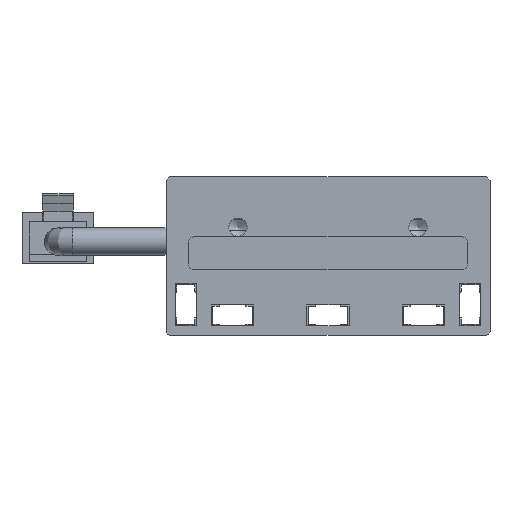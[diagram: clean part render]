
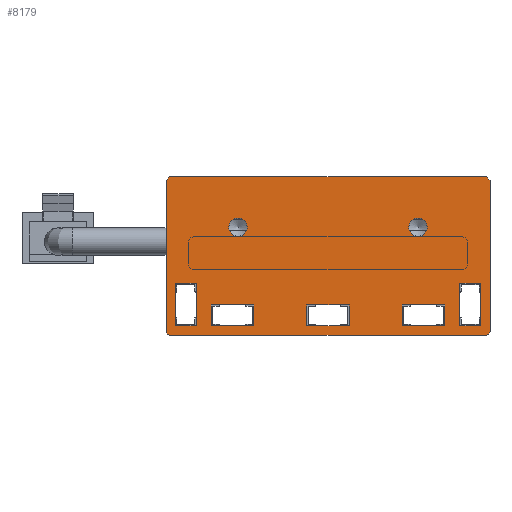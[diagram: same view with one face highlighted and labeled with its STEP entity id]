
A CAD part, front view. The second image highlights one B-rep face of the part: STEP entity #8179.
In plain terms, the highlighted planar face has unit normal (0, -1, 0).
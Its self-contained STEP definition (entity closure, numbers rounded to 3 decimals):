
#76=FACE_BOUND('',#1249,.T.);
#77=FACE_BOUND('',#1250,.T.);
#78=FACE_BOUND('',#1251,.T.);
#79=FACE_BOUND('',#1252,.T.);
#80=FACE_BOUND('',#1253,.T.);
#81=FACE_BOUND('',#1254,.T.);
#82=FACE_BOUND('',#1255,.T.);
#398=CIRCLE('',#8845,1.265);
#400=CIRCLE('',#8849,1.265);
#402=CIRCLE('',#8875,0.5);
#404=CIRCLE('',#8879,0.5);
#817=FACE_OUTER_BOUND('',#1248,.T.);
#1248=EDGE_LOOP('',(#7383,#7384,#7385,#7386,#7387,#7388,#7389,#7390));
#1249=EDGE_LOOP('',(#7391));
#1250=EDGE_LOOP('',(#7392));
#1251=EDGE_LOOP('',(#7393,#7394,#7395,#7396));
#1252=EDGE_LOOP('',(#7397,#7398,#7399,#7400));
#1253=EDGE_LOOP('',(#7401,#7402,#7403,#7404));
#1254=EDGE_LOOP('',(#7405,#7406,#7407,#7408));
#1255=EDGE_LOOP('',(#7409,#7410,#7411,#7412));
#2145=LINE('',#13345,#3093);
#2148=LINE('',#13351,#3096);
#2151=LINE('',#13357,#3099);
#2154=LINE('',#13361,#3102);
#2157=LINE('',#13369,#3105);
#2160=LINE('',#13375,#3108);
#2163=LINE('',#13381,#3111);
#2166=LINE('',#13385,#3114);
#2169=LINE('',#13393,#3117);
#2172=LINE('',#13399,#3120);
#2175=LINE('',#13405,#3123);
#2178=LINE('',#13409,#3126);
#2181=LINE('',#13417,#3129);
#2184=LINE('',#13423,#3132);
#2187=LINE('',#13429,#3135);
#2190=LINE('',#13433,#3138);
#2193=LINE('',#13441,#3141);
#2196=LINE('',#13447,#3144);
#2199=LINE('',#13453,#3147);
#2202=LINE('',#13457,#3150);
#2205=LINE('',#13465,#3153);
#2208=LINE('',#13471,#3156);
#2211=LINE('',#13477,#3159);
#2215=LINE('',#13489,#3163);
#2219=LINE('',#13501,#3167);
#2222=LINE('',#13505,#3170);
#3093=VECTOR('',#10975,10.);
#3096=VECTOR('',#10980,10.);
#3099=VECTOR('',#10985,10.);
#3102=VECTOR('',#10990,10.);
#3105=VECTOR('',#10995,10.);
#3108=VECTOR('',#11000,10.);
#3111=VECTOR('',#11005,10.);
#3114=VECTOR('',#11010,10.);
#3117=VECTOR('',#11015,10.);
#3120=VECTOR('',#11020,10.);
#3123=VECTOR('',#11025,10.);
#3126=VECTOR('',#11030,10.);
#3129=VECTOR('',#11035,10.);
#3132=VECTOR('',#11040,10.);
#3135=VECTOR('',#11045,10.);
#3138=VECTOR('',#11050,10.);
#3141=VECTOR('',#11055,10.);
#3144=VECTOR('',#11060,10.);
#3147=VECTOR('',#11065,10.);
#3150=VECTOR('',#11070,10.);
#3153=VECTOR('',#11075,10.);
#3156=VECTOR('',#11080,10.);
#3159=VECTOR('',#11085,10.);
#3163=VECTOR('',#11097,10.);
#3167=VECTOR('',#11109,10.);
#3170=VECTOR('',#11114,10.);
#3891=VERTEX_POINT('',#13326);
#3894=VERTEX_POINT('',#13335);
#3897=VERTEX_POINT('',#13342);
#3898=VERTEX_POINT('',#13344);
#3900=VERTEX_POINT('',#13350);
#3902=VERTEX_POINT('',#13356);
#3905=VERTEX_POINT('',#13366);
#3906=VERTEX_POINT('',#13368);
#3908=VERTEX_POINT('',#13374);
#3910=VERTEX_POINT('',#13380);
#3913=VERTEX_POINT('',#13390);
#3914=VERTEX_POINT('',#13392);
#3916=VERTEX_POINT('',#13398);
#3918=VERTEX_POINT('',#13404);
#3921=VERTEX_POINT('',#13414);
#3922=VERTEX_POINT('',#13416);
#3924=VERTEX_POINT('',#13422);
#3926=VERTEX_POINT('',#13428);
#3929=VERTEX_POINT('',#13438);
#3930=VERTEX_POINT('',#13440);
#3932=VERTEX_POINT('',#13446);
#3934=VERTEX_POINT('',#13452);
#3937=VERTEX_POINT('',#13462);
#3938=VERTEX_POINT('',#13464);
#3940=VERTEX_POINT('',#13470);
#3942=VERTEX_POINT('',#13476);
#3944=VERTEX_POINT('',#13482);
#3946=VERTEX_POINT('',#13488);
#3948=VERTEX_POINT('',#13494);
#3950=VERTEX_POINT('',#13500);
#5031=EDGE_CURVE('',#3891,#3891,#398,.T.);
#5035=EDGE_CURVE('',#3894,#3894,#400,.T.);
#5039=EDGE_CURVE('',#3898,#3897,#2145,.T.);
#5042=EDGE_CURVE('',#3900,#3898,#2148,.T.);
#5045=EDGE_CURVE('',#3902,#3900,#2151,.T.);
#5048=EDGE_CURVE('',#3897,#3902,#2154,.T.);
#5051=EDGE_CURVE('',#3906,#3905,#2157,.T.);
#5054=EDGE_CURVE('',#3908,#3906,#2160,.T.);
#5057=EDGE_CURVE('',#3910,#3908,#2163,.T.);
#5060=EDGE_CURVE('',#3905,#3910,#2166,.T.);
#5063=EDGE_CURVE('',#3914,#3913,#2169,.T.);
#5066=EDGE_CURVE('',#3916,#3914,#2172,.T.);
#5069=EDGE_CURVE('',#3918,#3916,#2175,.T.);
#5072=EDGE_CURVE('',#3913,#3918,#2178,.T.);
#5075=EDGE_CURVE('',#3922,#3921,#2181,.T.);
#5078=EDGE_CURVE('',#3924,#3922,#2184,.T.);
#5081=EDGE_CURVE('',#3926,#3924,#2187,.T.);
#5084=EDGE_CURVE('',#3921,#3926,#2190,.T.);
#5087=EDGE_CURVE('',#3930,#3929,#2193,.T.);
#5090=EDGE_CURVE('',#3932,#3930,#2196,.T.);
#5093=EDGE_CURVE('',#3934,#3932,#2199,.T.);
#5096=EDGE_CURVE('',#3929,#3934,#2202,.T.);
#5099=EDGE_CURVE('',#3938,#3937,#2205,.T.);
#5102=EDGE_CURVE('',#3940,#3938,#2208,.T.);
#5105=EDGE_CURVE('',#3942,#3940,#2211,.T.);
#5108=EDGE_CURVE('',#3944,#3942,#402,.T.);
#5111=EDGE_CURVE('',#3946,#3944,#2215,.T.);
#5114=EDGE_CURVE('',#3948,#3946,#404,.T.);
#5117=EDGE_CURVE('',#3950,#3948,#2219,.T.);
#5120=EDGE_CURVE('',#3937,#3950,#2222,.T.);
#7383=ORIENTED_EDGE('',*,*,#5120,.T.);
#7384=ORIENTED_EDGE('',*,*,#5117,.T.);
#7385=ORIENTED_EDGE('',*,*,#5114,.T.);
#7386=ORIENTED_EDGE('',*,*,#5111,.T.);
#7387=ORIENTED_EDGE('',*,*,#5108,.T.);
#7388=ORIENTED_EDGE('',*,*,#5105,.T.);
#7389=ORIENTED_EDGE('',*,*,#5102,.T.);
#7390=ORIENTED_EDGE('',*,*,#5099,.T.);
#7391=ORIENTED_EDGE('',*,*,#5031,.T.);
#7392=ORIENTED_EDGE('',*,*,#5035,.T.);
#7393=ORIENTED_EDGE('',*,*,#5096,.T.);
#7394=ORIENTED_EDGE('',*,*,#5093,.T.);
#7395=ORIENTED_EDGE('',*,*,#5090,.T.);
#7396=ORIENTED_EDGE('',*,*,#5087,.T.);
#7397=ORIENTED_EDGE('',*,*,#5084,.T.);
#7398=ORIENTED_EDGE('',*,*,#5081,.T.);
#7399=ORIENTED_EDGE('',*,*,#5078,.T.);
#7400=ORIENTED_EDGE('',*,*,#5075,.T.);
#7401=ORIENTED_EDGE('',*,*,#5072,.T.);
#7402=ORIENTED_EDGE('',*,*,#5069,.T.);
#7403=ORIENTED_EDGE('',*,*,#5066,.T.);
#7404=ORIENTED_EDGE('',*,*,#5063,.T.);
#7405=ORIENTED_EDGE('',*,*,#5060,.T.);
#7406=ORIENTED_EDGE('',*,*,#5057,.T.);
#7407=ORIENTED_EDGE('',*,*,#5054,.T.);
#7408=ORIENTED_EDGE('',*,*,#5051,.T.);
#7409=ORIENTED_EDGE('',*,*,#5048,.T.);
#7410=ORIENTED_EDGE('',*,*,#5045,.T.);
#7411=ORIENTED_EDGE('',*,*,#5042,.T.);
#7412=ORIENTED_EDGE('',*,*,#5039,.T.);
#7765=PLANE('',#8882);
#8179=ADVANCED_FACE('',(#817,#76,#77,#78,#79,#80,#81,#82),#7765,.T.);
#8845=AXIS2_PLACEMENT_3D('',#13327,#10958,#10959);
#8849=AXIS2_PLACEMENT_3D('',#13336,#10968,#10969);
#8875=AXIS2_PLACEMENT_3D('',#13483,#11091,#11092);
#8879=AXIS2_PLACEMENT_3D('',#13495,#11103,#11104);
#8882=AXIS2_PLACEMENT_3D('',#13506,#11115,#11116);
#10958=DIRECTION('center_axis',(0.,1.,0.));
#10959=DIRECTION('ref_axis',(0.,0.,-1.));
#10968=DIRECTION('center_axis',(0.,1.,0.));
#10969=DIRECTION('ref_axis',(0.,0.,-1.));
#10975=DIRECTION('',(0.,0.,-1.));
#10980=DIRECTION('',(1.,0.,0.));
#10985=DIRECTION('',(0.,0.,1.));
#10990=DIRECTION('',(-1.,0.,0.));
#10995=DIRECTION('',(0.,0.,-1.));
#11000=DIRECTION('',(1.,0.,0.));
#11005=DIRECTION('',(0.,0.,1.));
#11010=DIRECTION('',(-1.,0.,0.));
#11015=DIRECTION('',(0.,0.,-1.));
#11020=DIRECTION('',(1.,0.,0.));
#11025=DIRECTION('',(0.,0.,1.));
#11030=DIRECTION('',(-1.,0.,0.));
#11035=DIRECTION('',(0.,0.,-1.));
#11040=DIRECTION('',(1.,0.,0.));
#11045=DIRECTION('',(0.,0.,1.));
#11050=DIRECTION('',(-1.,0.,0.));
#11055=DIRECTION('',(0.,0.,-1.));
#11060=DIRECTION('',(1.,0.,0.));
#11065=DIRECTION('',(0.,0.,1.));
#11070=DIRECTION('',(-1.,0.,0.));
#11075=DIRECTION('',(-1.,0.,0.));
#11080=DIRECTION('',(-0.707,0.,0.707));
#11085=DIRECTION('',(0.,0.,1.));
#11091=DIRECTION('center_axis',(0.,-1.,0.));
#11092=DIRECTION('ref_axis',(0.,0.,-1.));
#11097=DIRECTION('',(1.,0.,0.));
#11103=DIRECTION('center_axis',(0.,-1.,0.));
#11104=DIRECTION('ref_axis',(-1.,0.,0.));
#11109=DIRECTION('',(0.,0.,-1.));
#11114=DIRECTION('',(-0.707,0.,-0.707));
#11115=DIRECTION('center_axis',(0.,-1.,0.));
#11116=DIRECTION('ref_axis',(1.,0.,0.));
#13326=CARTESIAN_POINT('',(-12.5,-285.,16.265));
#13327=CARTESIAN_POINT('Origin',(-12.5,-285.,15.));
#13335=CARTESIAN_POINT('',(12.5,-285.,16.265));
#13336=CARTESIAN_POINT('Origin',(12.5,-285.,15.));
#13342=CARTESIAN_POINT('',(-18.3,-285.,1.3));
#13344=CARTESIAN_POINT('',(-18.3,-285.,7.2));
#13345=CARTESIAN_POINT('',(-18.3,-285.,7.2));
#13350=CARTESIAN_POINT('',(-21.2,-285.,7.2));
#13351=CARTESIAN_POINT('',(-21.2,-285.,7.2));
#13356=CARTESIAN_POINT('',(-21.2,-285.,1.3));
#13357=CARTESIAN_POINT('',(-21.2,-285.,1.3));
#13361=CARTESIAN_POINT('',(-18.3,-285.,1.3));
#13366=CARTESIAN_POINT('',(-10.3,-285.,1.3));
#13368=CARTESIAN_POINT('',(-10.3,-285.,4.2));
#13369=CARTESIAN_POINT('',(-10.3,-285.,4.2));
#13374=CARTESIAN_POINT('',(-16.2,-285.,4.2));
#13375=CARTESIAN_POINT('',(-16.2,-285.,4.2));
#13380=CARTESIAN_POINT('',(-16.2,-285.,1.3));
#13381=CARTESIAN_POINT('',(-16.2,-285.,1.3));
#13385=CARTESIAN_POINT('',(-10.3,-285.,1.3));
#13390=CARTESIAN_POINT('',(2.95,-285.,1.3));
#13392=CARTESIAN_POINT('',(2.95,-285.,4.2));
#13393=CARTESIAN_POINT('',(2.95,-285.,4.2));
#13398=CARTESIAN_POINT('',(-2.95,-285.,4.2));
#13399=CARTESIAN_POINT('',(-2.95,-285.,4.2));
#13404=CARTESIAN_POINT('',(-2.95,-285.,1.3));
#13405=CARTESIAN_POINT('',(-2.95,-285.,1.3));
#13409=CARTESIAN_POINT('',(2.95,-285.,1.3));
#13414=CARTESIAN_POINT('',(16.2,-285.,1.3));
#13416=CARTESIAN_POINT('',(16.2,-285.,4.2));
#13417=CARTESIAN_POINT('',(16.2,-285.,4.2));
#13422=CARTESIAN_POINT('',(10.3,-285.,4.2));
#13423=CARTESIAN_POINT('',(10.3,-285.,4.2));
#13428=CARTESIAN_POINT('',(10.3,-285.,1.3));
#13429=CARTESIAN_POINT('',(10.3,-285.,1.3));
#13433=CARTESIAN_POINT('',(16.2,-285.,1.3));
#13438=CARTESIAN_POINT('',(21.2,-285.,1.3));
#13440=CARTESIAN_POINT('',(21.2,-285.,7.2));
#13441=CARTESIAN_POINT('',(21.2,-285.,7.2));
#13446=CARTESIAN_POINT('',(18.3,-285.,7.2));
#13447=CARTESIAN_POINT('',(18.3,-285.,7.2));
#13452=CARTESIAN_POINT('',(18.3,-285.,1.3));
#13453=CARTESIAN_POINT('',(18.3,-285.,1.3));
#13457=CARTESIAN_POINT('',(21.2,-285.,1.3));
#13462=CARTESIAN_POINT('',(-22.,-285.,22.));
#13464=CARTESIAN_POINT('',(22.,-285.,22.));
#13465=CARTESIAN_POINT('',(22.,-285.,22.));
#13470=CARTESIAN_POINT('',(22.5,-285.,21.5));
#13471=CARTESIAN_POINT('',(22.5,-285.,21.5));
#13476=CARTESIAN_POINT('',(22.5,-285.,0.5));
#13477=CARTESIAN_POINT('',(22.5,-285.,21.5));
#13482=CARTESIAN_POINT('',(22.,-285.,0.));
#13483=CARTESIAN_POINT('Origin',(22.,-285.,0.5));
#13488=CARTESIAN_POINT('',(-22.,-285.,0.));
#13489=CARTESIAN_POINT('',(22.,-285.,0.));
#13494=CARTESIAN_POINT('',(-22.5,-285.,0.5));
#13495=CARTESIAN_POINT('Origin',(-22.,-285.,0.5));
#13500=CARTESIAN_POINT('',(-22.5,-285.,21.5));
#13501=CARTESIAN_POINT('',(-22.5,-285.,21.5));
#13505=CARTESIAN_POINT('',(-22.,-285.,22.));
#13506=CARTESIAN_POINT('Origin',(0.,-285.,11.));
